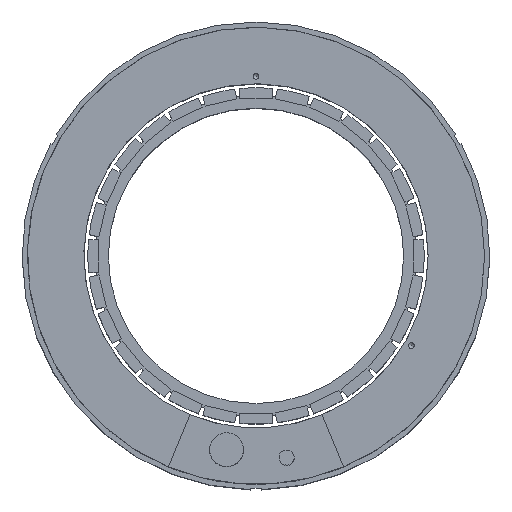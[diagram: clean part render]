
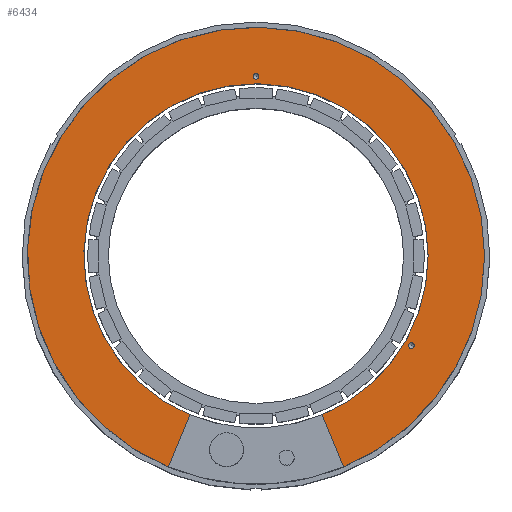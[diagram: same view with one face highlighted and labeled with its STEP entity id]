
A CAD part, top view. The second image highlights one B-rep face of the part: STEP entity #6434.
In plain terms, the highlighted planar face has unit normal (0, 0, 1).
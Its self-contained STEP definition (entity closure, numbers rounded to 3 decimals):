
#117=LINE('',#9240,#939);
#118=LINE('',#9244,#940);
#939=VECTOR('',#7395,1000.);
#940=VECTOR('',#7398,1000.);
#1780=ORIENTED_EDGE('',*,*,#3689,.T.);
#1781=ORIENTED_EDGE('',*,*,#3690,.T.);
#1782=ORIENTED_EDGE('',*,*,#3691,.F.);
#1783=ORIENTED_EDGE('',*,*,#3692,.T.);
#1784=ORIENTED_EDGE('',*,*,#3693,.F.);
#1785=ORIENTED_EDGE('',*,*,#3685,.F.);
#3685=EDGE_CURVE('',#4637,#4638,#5227,.T.);
#3689=EDGE_CURVE('',#4641,#4641,#5229,.T.);
#3690=EDGE_CURVE('',#4642,#4642,#5230,.T.);
#3691=EDGE_CURVE('',#4643,#4637,#117,.T.);
#3692=EDGE_CURVE('',#4643,#4644,#5231,.T.);
#3693=EDGE_CURVE('',#4638,#4644,#118,.T.);
#4637=VERTEX_POINT('',#9228);
#4638=VERTEX_POINT('',#9229);
#4641=VERTEX_POINT('',#9237);
#4642=VERTEX_POINT('',#9239);
#4643=VERTEX_POINT('',#9241);
#4644=VERTEX_POINT('',#9243);
#5227=CIRCLE('',#6835,48.95);
#5229=CIRCLE('',#6838,0.825);
#5230=CIRCLE('',#6839,0.825);
#5231=CIRCLE('',#6840,65.);
#5364=EDGE_LOOP('',(#1780));
#5365=EDGE_LOOP('',(#1781));
#5366=EDGE_LOOP('',(#1782,#1783,#1784,#1785));
#5750=FACE_BOUND('',#5364,.T.);
#5751=FACE_BOUND('',#5365,.T.);
#5752=FACE_BOUND('',#5366,.T.);
#6130=PLANE('',#6837);
#6434=ADVANCED_FACE('',(#5750,#5751,#5752),#6130,.T.);
#6835=AXIS2_PLACEMENT_3D('',#9227,#7383,#7384);
#6837=AXIS2_PLACEMENT_3D('',#9235,#7389,#7390);
#6838=AXIS2_PLACEMENT_3D('',#9236,#7391,#7392);
#6839=AXIS2_PLACEMENT_3D('',#9238,#7393,#7394);
#6840=AXIS2_PLACEMENT_3D('',#9242,#7396,#7397);
#7383=DIRECTION('',(0.,0.,1.));
#7384=DIRECTION('',(1.,0.,0.));
#7389=DIRECTION('',(0.,0.,1.));
#7390=DIRECTION('',(1.,0.,0.));
#7391=DIRECTION('',(0.,0.,-1.));
#7392=DIRECTION('',(0.,-1.,0.));
#7393=DIRECTION('',(0.,0.,-1.));
#7394=DIRECTION('',(0.,-1.,0.));
#7395=DIRECTION('',(-0.383,0.924,0.));
#7396=DIRECTION('',(0.,0.,1.));
#7397=DIRECTION('',(1.,0.,0.));
#7398=DIRECTION('',(-0.383,-0.924,0.));
#9227=CARTESIAN_POINT('',(0.,0.,60.));
#9228=CARTESIAN_POINT('',(18.732,-45.224,60.));
#9229=CARTESIAN_POINT('',(-18.732,-45.224,60.));
#9235=CARTESIAN_POINT('',(48.95,0.,60.));
#9236=CARTESIAN_POINT('',(44.167,-25.5,60.));
#9237=CARTESIAN_POINT('',(44.167,-26.325,60.));
#9238=CARTESIAN_POINT('',(0.,51.,60.));
#9239=CARTESIAN_POINT('',(0.,50.175,60.));
#9240=CARTESIAN_POINT('',(18.732,-45.224,60.));
#9241=CARTESIAN_POINT('',(24.874,-60.052,60.));
#9242=CARTESIAN_POINT('',(0.,0.,60.));
#9243=CARTESIAN_POINT('',(-24.874,-60.052,60.));
#9244=CARTESIAN_POINT('',(-18.732,-45.224,60.));
